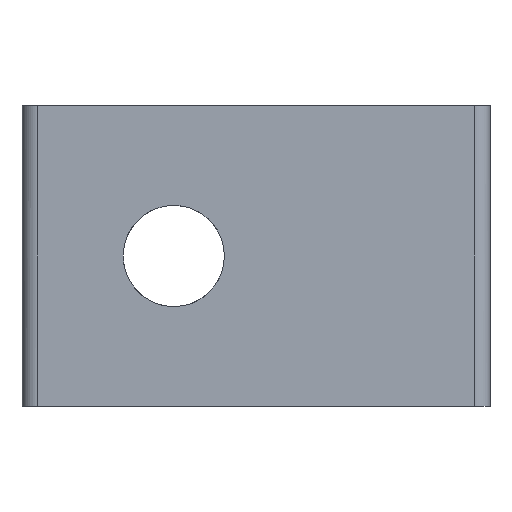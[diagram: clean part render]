
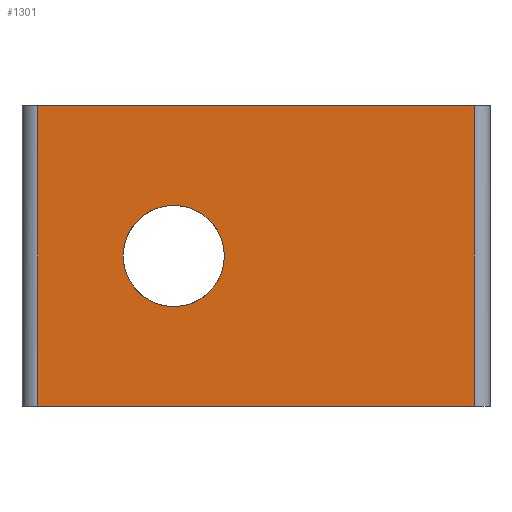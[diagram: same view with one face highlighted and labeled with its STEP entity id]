
A CAD part, left-side view. The second image highlights one B-rep face of the part: STEP entity #1301.
In plain terms, the highlighted free-form (B-spline) face has degree [1, 1] with [2, 2] control points.
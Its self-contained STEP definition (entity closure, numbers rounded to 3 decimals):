
#365=CARTESIAN_POINT('V11',(0.,11.6,
   4.75));
#366=VERTEX_POINT('V11',#365);
#372=CARTESIAN_POINT('E14',(0.,11.6,
   4.75));
#373=CARTESIAN_POINT('E14',(0.,11.6,
   7.521));
#374=CARTESIAN_POINT('E14',(0.,9.2,
   6.136));
#375=CARTESIAN_POINT('E14',(0.,6.8,
   4.75));
#376=CARTESIAN_POINT('E14',(0.,9.2,
   3.364));
#377=CARTESIAN_POINT('E14',(0.,11.6,
   1.979));
#378=CARTESIAN_POINT('E14',(0.,11.6,
   4.75));
#386=(BOUNDED_CURVE()B_SPLINE_CURVE(2,(#372,#373,#374,#375,#376,
   #377,#378),.CIRCULAR_ARC.,.T.,.U.)B_SPLINE_CURVE_WITH_KNOTS((3,
   2,2,3),(0.0,0.333,0.667,1.0),
   .UNSPECIFIED.)CURVE()GEOMETRIC_REPRESENTATION_ITEM()
   RATIONAL_B_SPLINE_CURVE((1.0,0.5,1.0,
   0.5,1.0,0.5,1.0))REPRESENTATION_ITEM(
   'E14'));
#387=EDGE_CURVE('E14',#366,#366,#386,.T.);
#1079=CARTESIAN_POINT('V14',(0.,14.3,
   9.5));
#1080=VERTEX_POINT('V14',#1079);
#1094=CARTESIAN_POINT('V13',(0.,0.5,
   9.5));
#1095=VERTEX_POINT('V13',#1094);
#1096=CARTESIAN_POINT('E16',(0.,14.3,
   9.5));
#1097=CARTESIAN_POINT('E16',(0.,0.5,
   9.5));
#1098=B_SPLINE_CURVE_WITH_KNOTS('E16',1,(#1096,#1097),
   .POLYLINE_FORM.,.F.,.U.,(2,2),(0.034,
   0.966),.UNSPECIFIED.);
#1099=EDGE_CURVE('E16',#1080,#1095,#1098,.T.);
#1252=CARTESIAN_POINT('V12',(0.,0.5,0.0)
   );
#1253=VERTEX_POINT('V12',#1252);
#1269=CARTESIAN_POINT('E15',(0.,0.5,0.0)
   );
#1270=CARTESIAN_POINT('E15',(0.,0.5,
   9.5));
#1271=B_SPLINE_CURVE_WITH_KNOTS('E15',1,(#1269,#1270),
   .POLYLINE_FORM.,.F.,.U.,(2,2),(2.0,14.096),
   .UNSPECIFIED.);
#1272=EDGE_CURVE('E15',#1253,#1095,#1271,.T.);
#1277=CARTESIAN_POINT('F4',(0.,14.8,0.0)
   );
#1278=CARTESIAN_POINT('F4',(0.0,0.0,0.0));
#1279=CARTESIAN_POINT('F4',(0.,14.8,
   9.5));
#1280=CARTESIAN_POINT('F4',(0.0,0.0,9.5));
#1281=B_SPLINE_SURFACE_WITH_KNOTS('F4',1,1,((#1277,#1279),(#1278,
   #1280)),.PLANE_SURF.,.F.,.F.,.U.,(2,2),(2,2),(0.0,
   1.558),(0.0,1.0),.UNSPECIFIED.);
#1282=ORIENTED_EDGE('F23',*,*,#1272,.T.);
#1283=ORIENTED_EDGE('E16',*,*,#1099,.F.);
#1284=CARTESIAN_POINT('V15',(0.,14.3,0.0)
   );
#1285=VERTEX_POINT('V15',#1284);
#1286=CARTESIAN_POINT('E17',(0.,14.3,
   9.5));
#1287=CARTESIAN_POINT('E17',(0.,14.3,0.0)
   );
#1288=B_SPLINE_CURVE_WITH_KNOTS('E17',1,(#1286,#1287),
   .POLYLINE_FORM.,.F.,.U.,(2,2),(2.0,14.096),
   .UNSPECIFIED.);
#1289=EDGE_CURVE('E17',#1080,#1285,#1288,.T.);
#1290=ORIENTED_EDGE('E17',*,*,#1289,.T.);
#1291=CARTESIAN_POINT('E18',(0.,0.5,0.0)
   );
#1292=CARTESIAN_POINT('E18',(0.,14.3,0.0)
   );
#1293=B_SPLINE_CURVE_WITH_KNOTS('E18',1,(#1291,#1292),
   .POLYLINE_FORM.,.F.,.U.,(2,2),(0.034,
   0.966),.UNSPECIFIED.);
#1294=EDGE_CURVE('E18',#1253,#1285,#1293,.T.);
#1295=ORIENTED_EDGE('E18',*,*,#1294,.F.);
#1296=EDGE_LOOP('F4',(#1282,#1283,#1290,#1295));
#1297=FACE_OUTER_BOUND('F4',#1296,.T.);
#1298=ORIENTED_EDGE('E14',*,*,#387,.T.);
#1299=EDGE_LOOP('F4',(#1298));
#1300=FACE_BOUND('F4',#1299,.T.);
#1301=ADVANCED_FACE('F4',(#1297,#1300),#1281,.T.);
